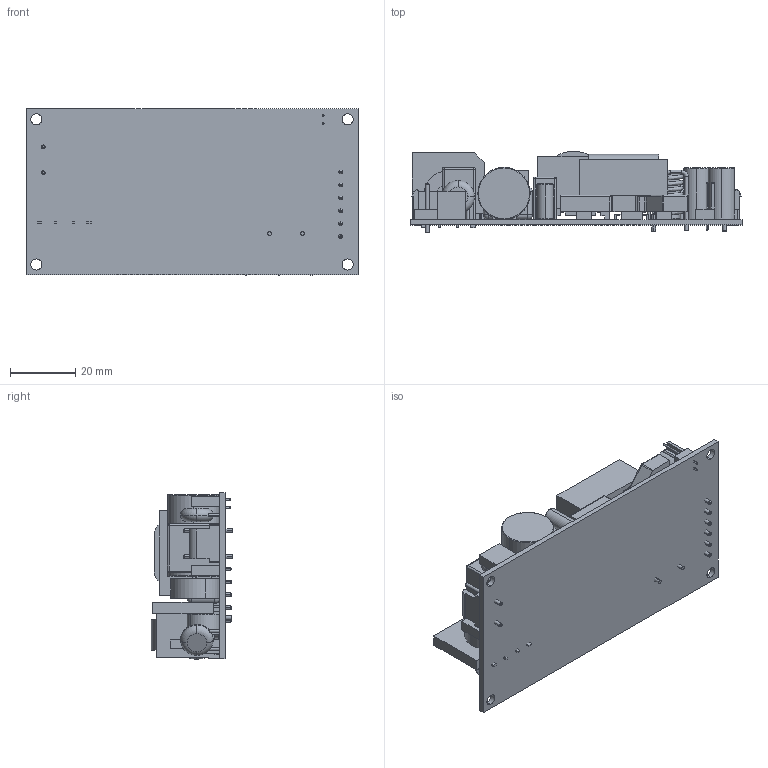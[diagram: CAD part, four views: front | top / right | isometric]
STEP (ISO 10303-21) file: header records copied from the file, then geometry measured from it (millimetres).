
FILE_DESCRIPTION (( 'STEP AP214' ), '1' );
FILE_NAME ('X50AAMC01F.STEP', '2017-07-31T06:44:12', ( '' ), ( '' ), 'SwSTEP 2.0', 'SolidWorks 2016', '' );
FILE_SCHEMA (( 'AUTOMOTIVE_DESIGN' ));
Length unit declared in the file: millimetre
Products named in the file (21): Cap-5-11; Cap-8-21.3; 3.96 mm Locking Header 3-2pin; MEF15X10; A50AAPL00P; 2-2 2.54mm; Cap-16-25; FUSE; 3.96 mm Locking Header 6pin; x-cap-10X15; X50AAMC01F; PHOTO-COUPLER; Y-Cap; Common-choke-1; BRIDGE 4A800VD6K; X50AATR01P; TO-220; Common-choke; MPB; 2X4 PCB; Inductor R6x15
Assembly tree (28 placements, depth 2):
  X50AAMC01F
    2X4 PCB
    BRIDGE 4A800VD6K
    3.96 mm Locking Header 3-2pin
    3.96 mm Locking Header 6pin
    2-2 2.54mm
    FUSE  x2
    Common-choke
    Y-Cap  x7
    Common-choke-1
    TO-220
    Cap-16-25
    Cap-8-21.3  x2
    MEF15X10
    Cap-5-11
    PHOTO-COUPLER
    Inductor R6x15
    X50AATR01P
    A50AAPL00P
    MPB
    x-cap-10X15
Bounding box: 101.6 x 25 x 50.87 mm (x, y, z)
Volume: 46867.2 mm3; surface area: 31255.6 mm2
Topology: 28 solids, 28 shells, 685 faces, 1600 edges, 991 vertices
Faces by surface type: plane 330, cylinder 204, torus 124, sphere 18, bspline 9
Entity records: 18298 total; most frequent: CARTESIAN_POINT 3944, DIRECTION 2959, ORIENTED_EDGE 2692, EDGE_CURVE 1346, AXIS2_PLACEMENT_3D 1072, VERTEX_POINT 851, LINE 815, VECTOR 815
